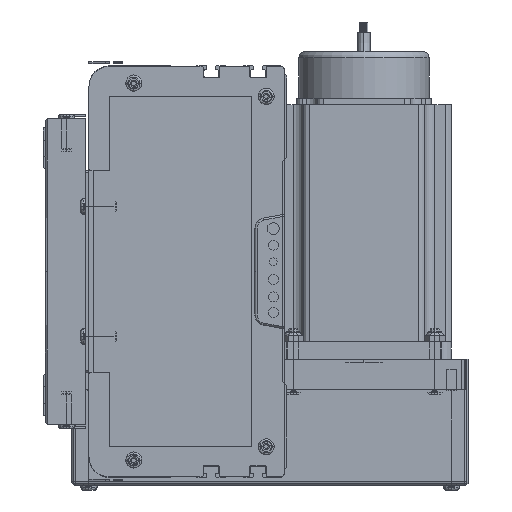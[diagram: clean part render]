
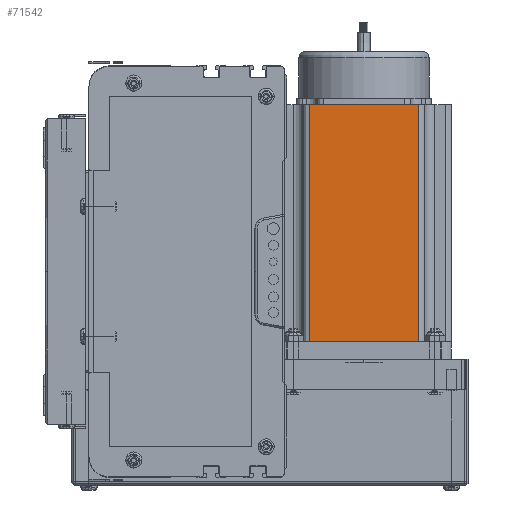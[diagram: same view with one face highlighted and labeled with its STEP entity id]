
A CAD part, left-side view. The second image highlights one B-rep face of the part: STEP entity #71542.
In plain terms, the highlighted planar face has unit normal (-1, 0, 0) as drawn and (0, -1, 0) by its records, which use the part's own axes.
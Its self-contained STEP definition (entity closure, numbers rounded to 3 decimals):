
#20263 = CARTESIAN_POINT ( 'NONE',  ( 69.74, 0., 116.5 ) ) ;
#20286 = DIRECTION ( 'NONE',  ( 0., 0., 1. ) ) ;
#20288 = VECTOR ( 'NONE', #20286, 1000. ) ;
#20289 = CARTESIAN_POINT ( 'NONE',  ( 69.74, 0., 116.5 ) ) ;
#20291 = LINE ( 'NONE', #20289, #20288 ) ;
#20295 = CARTESIAN_POINT ( 'NONE',  ( 16.16, 0., 0. ) ) ;
#20364 = FACE_OUTER_BOUND ( 'NONE', #71723, .T. ) ;
#20367 = AXIS2_PLACEMENT_3D ( 'NONE', #20407, #20401, #20400 ) ;
#20390 = DIRECTION ( 'NONE',  ( 0., 0., -1. ) ) ;
#20391 = VECTOR ( 'NONE', #20390, 1000. ) ;
#20392 = CARTESIAN_POINT ( 'NONE',  ( 16.16, 0., 116.5 ) ) ;
#20393 = LINE ( 'NONE', #20392, #20391 ) ;
#20400 = DIRECTION ( 'NONE',  ( 0., 0., 1. ) ) ;
#20401 = DIRECTION ( 'NONE',  ( 0., 1., 0. ) ) ;
#20403 = PLANE ( 'NONE',  #20367 ) ;
#20407 = CARTESIAN_POINT ( 'NONE',  ( 0., 0., 116.5 ) ) ;
#20413 = CARTESIAN_POINT ( 'NONE',  ( 0., 0., 116.5 ) ) ;
#20414 = LINE ( 'NONE', #20413, #20474 ) ;
#20435 = CARTESIAN_POINT ( 'NONE',  ( 69.74, 0., 0. ) ) ;
#20473 = DIRECTION ( 'NONE',  ( 1., 0., 0. ) ) ;
#20474 = VECTOR ( 'NONE', #20473, 1000. ) ;
#20749 = DIRECTION ( 'NONE',  ( 1., 0., 0. ) ) ;
#20750 = VECTOR ( 'NONE', #20749, 1000. ) ;
#20763 = CARTESIAN_POINT ( 'NONE',  ( 0., 0., 0. ) ) ;
#20764 = LINE ( 'NONE', #20763, #20750 ) ;
#20820 = CARTESIAN_POINT ( 'NONE',  ( 16.16, 0., 116.5 ) ) ;
#69820 = VERTEX_POINT ( 'NONE', #20263 ) ;
#69869 = EDGE_CURVE ( 'NONE', #71803, #69820, #20291, .T. ) ;
#69969 = VERTEX_POINT ( 'NONE', #20295 ) ;
#71542 = ADVANCED_FACE ( 'NONE', ( #20364 ), #20403, .F. ) ;
#71550 = ORIENTED_EDGE ( 'NONE', *, *, #71553, .T. ) ;
#71553 = EDGE_CURVE ( 'NONE', #72259, #69969, #20393, .T. ) ;
#71689 = ORIENTED_EDGE ( 'NONE', *, *, #69869, .T. ) ;
#71723 = EDGE_LOOP ( 'NONE', ( #71829, #71689, #71725, #71550 ) ) ;
#71725 = ORIENTED_EDGE ( 'NONE', *, *, #71727, .F. ) ;
#71727 = EDGE_CURVE ( 'NONE', #72259, #69820, #20414, .T. ) ;
#71803 = VERTEX_POINT ( 'NONE', #20435 ) ;
#71829 = ORIENTED_EDGE ( 'NONE', *, *, #72209, .T. ) ;
#72209 = EDGE_CURVE ( 'NONE', #69969, #71803, #20764, .T. ) ;
#72259 = VERTEX_POINT ( 'NONE', #20820 ) ;
